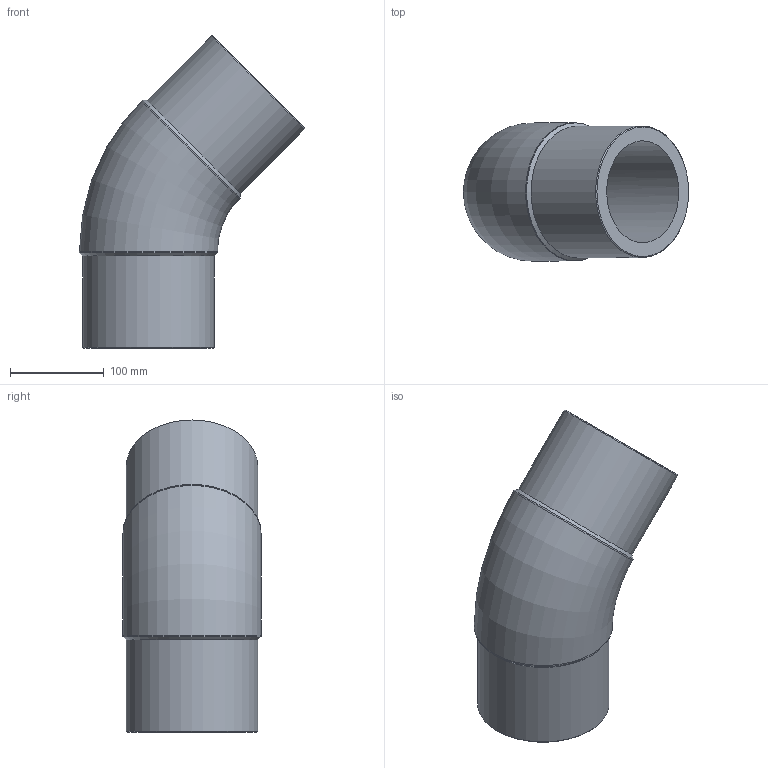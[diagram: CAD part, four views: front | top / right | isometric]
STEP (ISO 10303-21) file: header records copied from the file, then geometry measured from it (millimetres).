
FILE_DESCRIPTION(/* description */ ('Unknown'),/* implementation_level */ '2;1');
FILE_NAME(/* name */ 'G4P140G',/* time_stamp */ '2022-01-20T17:11:45+01:00',/* author */ ('Unknown'),/* organization */ ('Unknown'),/* preprocessor_version */ 'ST-DEVELOPER v18.1',/* originating_system */ 'Solid Edge',/* authorisation */ 'Unknown');
FILE_SCHEMA (('AUTOMOTIVE_DESIGN {1 0 10303 214 3 1 1}'));
Length unit declared in the file: millimetre
Products named in the file (1): G4P140G
Bounding box: 239.67 x 147 x 332.17 mm (x, y, z)
Volume: 2221860.4 mm3; surface area: 269868 mm2
Topology: 1 solids, 1 shells, 14 faces, 34 edges, 22 vertices
Faces by surface type: cylinder 6, cone 4, plane 2, torus 2
Full cylindrical faces by diameter (mm): 108.6 x2, 140 x2, 147 x2
Entity records: 370 total; most frequent: CARTESIAN_POINT 70, DIRECTION 60, ORIENTED_EDGE 38, AXIS2_PLACEMENT_3D 30, EDGE_LOOP 27, FACE_BOUND 27, EDGE_CURVE 19, VERTEX_POINT 18
